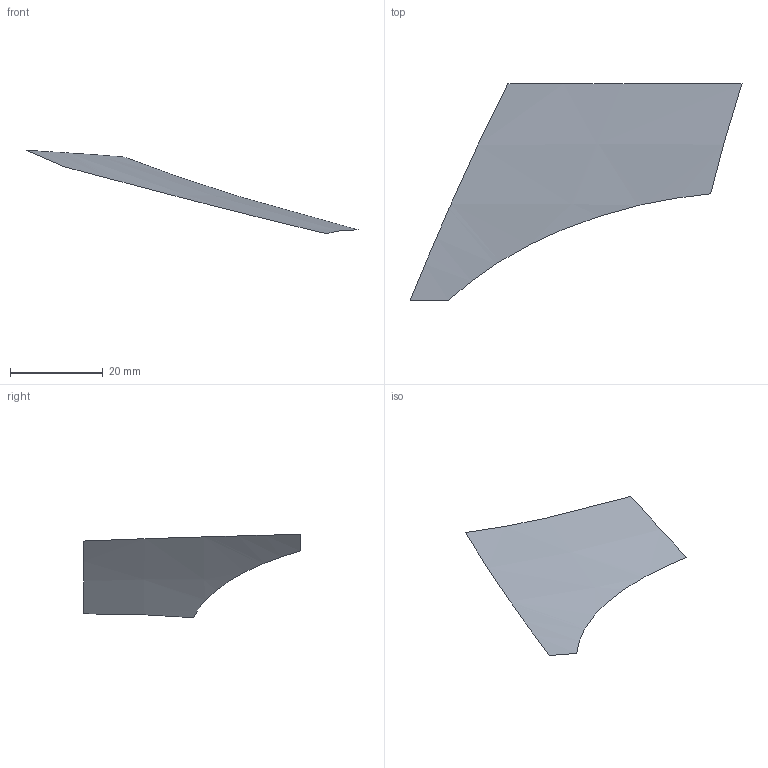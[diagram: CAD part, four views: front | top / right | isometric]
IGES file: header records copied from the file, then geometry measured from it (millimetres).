
Start section: START RECORD GO HERE
Global section: file name: s10.igs; native system: IBM CATIA IGES - CATIA SOLUTIONS V4RELEASE 1.9 REFRESH 01; preprocessor: CATIA SOLUTIONS V4RELEASE 1.9 REFRESH 01; author: cky; date: 990510.133752; units: millimetre
Bounding box: 71.52 x 46.67 x 17.98 mm (x, y, z)
Surface area: 1885.7 mm2 (no closed solid volume)
Topology: 0 solids, 0 shells, 1 faces, 22 edges, 22 vertices
Faces by surface type: bspline 1
